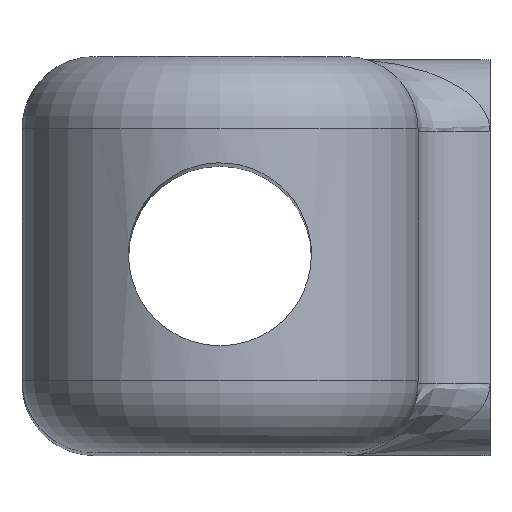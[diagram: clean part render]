
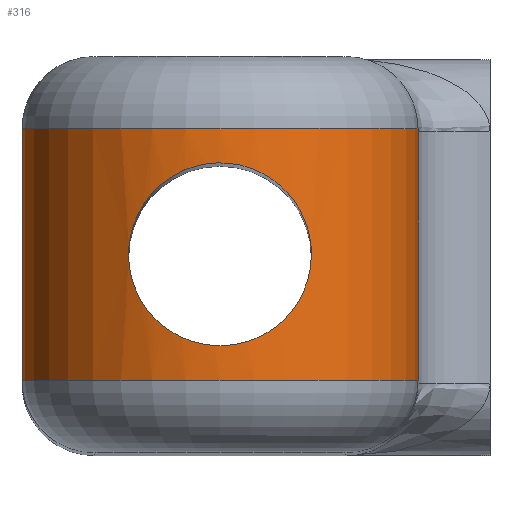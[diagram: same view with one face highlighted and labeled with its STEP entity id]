
A CAD part, top view. The second image highlights one B-rep face of the part: STEP entity #316.
In plain terms, the highlighted cylindrical face has radius 11 mm (diameter 22 mm), a partial arc.
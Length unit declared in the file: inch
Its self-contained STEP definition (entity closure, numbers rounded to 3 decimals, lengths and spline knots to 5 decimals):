
#31=FACE_BOUND('',#57,.T.);
#34=FACE_OUTER_BOUND('',#56,.T.);
#56=EDGE_LOOP('',(#217,#218,#219,#220));
#57=EDGE_LOOP('',(#221));
#79=B_SPLINE_CURVE_WITH_KNOTS('',3,(#514,#515,#516,#517,#518,#519,#520,
#521,#522,#523,#524,#525,#526,#527,#528,#529,#530,#531,#532,#533,#534,#535,
#536,#537,#538,#539,#540,#541,#542,#543,#544,#545,#546,#547),
 .UNSPECIFIED.,.T.,.F.,(4,2,2,2,2,2,2,2,2,2,2,2,2,2,2,2,4),(0.,0.19481,
0.38962,0.58405,0.77849,0.97293,
1.16737,1.36217,1.55698,1.75179,1.9466,
2.14103,2.33547,2.52991,2.72435,2.91915,
3.11396),.UNSPECIFIED.);
#81=LINE('',#553,#101);
#82=LINE('',#556,#102);
#101=VECTOR('',#407,0.55118);
#102=VECTOR('',#410,0.55118);
#121=CIRCLE('',#354,0.43307);
#122=CIRCLE('',#355,0.43307);
#142=VERTEX_POINT('',#512);
#143=VERTEX_POINT('',#549);
#144=VERTEX_POINT('',#550);
#145=VERTEX_POINT('',#552);
#146=VERTEX_POINT('',#554);
#169=EDGE_CURVE('',#142,#142,#79,.T.);
#170=EDGE_CURVE('',#143,#144,#121,.T.);
#171=EDGE_CURVE('',#143,#145,#81,.T.);
#172=EDGE_CURVE('',#146,#145,#122,.T.);
#173=EDGE_CURVE('',#144,#146,#82,.T.);
#217=ORIENTED_EDGE('',*,*,#170,.F.);
#218=ORIENTED_EDGE('',*,*,#171,.T.);
#219=ORIENTED_EDGE('',*,*,#172,.F.);
#220=ORIENTED_EDGE('',*,*,#173,.F.);
#221=ORIENTED_EDGE('',*,*,#169,.T.);
#306=CYLINDRICAL_SURFACE('',#353,0.43307);
#316=ADVANCED_FACE('',(#34,#31),#306,.T.);
#353=AXIS2_PLACEMENT_3D('',#548,#403,#404);
#354=AXIS2_PLACEMENT_3D('',#551,#405,#406);
#355=AXIS2_PLACEMENT_3D('',#555,#408,#409);
#403=DIRECTION('center_axis',(0.,1.,0.));
#404=DIRECTION('ref_axis',(-1.,0.,0.));
#405=DIRECTION('center_axis',(0.,-1.,0.));
#406=DIRECTION('ref_axis',(0.,0.,1.));
#407=DIRECTION('',(0.,1.,0.));
#408=DIRECTION('center_axis',(0.,1.,0.));
#409=DIRECTION('ref_axis',(0.,0.,1.));
#410=DIRECTION('',(0.,1.,0.));
#512=CARTESIAN_POINT('',(0.2,0.,4.28176));
#514=CARTESIAN_POINT('Ctrl Pts',(0.2,0.,
4.28176));
#515=CARTESIAN_POINT('Ctrl Pts',(0.2,-0.02557,4.28176));
#516=CARTESIAN_POINT('Ctrl Pts',(0.19481,-0.05251,4.28458));
#517=CARTESIAN_POINT('Ctrl Pts',(0.1743,-0.10163,4.29425));
#518=CARTESIAN_POINT('Ctrl Pts',(0.15898,-0.12386,4.3009));
#519=CARTESIAN_POINT('Ctrl Pts',(0.12389,-0.15895,4.31302));
#520=CARTESIAN_POINT('Ctrl Pts',(0.10166,-0.17429,4.31935));
#521=CARTESIAN_POINT('Ctrl Pts',(0.05248,-0.19482,
4.32824));
#522=CARTESIAN_POINT('Ctrl Pts',(0.02552,-0.2,4.33071));
#523=CARTESIAN_POINT('Ctrl Pts',(-0.02552,-0.2,
4.33071));
#524=CARTESIAN_POINT('Ctrl Pts',(-0.05248,-0.19482,
4.32824));
#525=CARTESIAN_POINT('Ctrl Pts',(-0.10166,-0.17429,
4.31935));
#526=CARTESIAN_POINT('Ctrl Pts',(-0.12389,-0.15895,
4.31302));
#527=CARTESIAN_POINT('Ctrl Pts',(-0.15898,-0.12386,
4.3009));
#528=CARTESIAN_POINT('Ctrl Pts',(-0.1743,-0.10163,
4.29425));
#529=CARTESIAN_POINT('Ctrl Pts',(-0.19481,-0.05251,
4.28458));
#530=CARTESIAN_POINT('Ctrl Pts',(-0.2,-0.02557,
4.28176));
#531=CARTESIAN_POINT('Ctrl Pts',(-0.2,0.02557,4.28176));
#532=CARTESIAN_POINT('Ctrl Pts',(-0.19481,0.05251,
4.28458));
#533=CARTESIAN_POINT('Ctrl Pts',(-0.1743,0.10163,4.29425));
#534=CARTESIAN_POINT('Ctrl Pts',(-0.15898,0.12386,4.3009));
#535=CARTESIAN_POINT('Ctrl Pts',(-0.12389,0.15895,4.31302));
#536=CARTESIAN_POINT('Ctrl Pts',(-0.10166,0.17429,4.31935));
#537=CARTESIAN_POINT('Ctrl Pts',(-0.05248,0.19482,
4.32824));
#538=CARTESIAN_POINT('Ctrl Pts',(-0.02552,0.2,4.33071));
#539=CARTESIAN_POINT('Ctrl Pts',(0.02552,0.2,4.33071));
#540=CARTESIAN_POINT('Ctrl Pts',(0.05248,0.19482,4.32824));
#541=CARTESIAN_POINT('Ctrl Pts',(0.10166,0.17429,4.31935));
#542=CARTESIAN_POINT('Ctrl Pts',(0.12389,0.15895,4.31302));
#543=CARTESIAN_POINT('Ctrl Pts',(0.15898,0.12386,4.3009));
#544=CARTESIAN_POINT('Ctrl Pts',(0.1743,0.10163,4.29425));
#545=CARTESIAN_POINT('Ctrl Pts',(0.19481,0.05251,4.28458));
#546=CARTESIAN_POINT('Ctrl Pts',(0.2,0.02557,4.28176));
#547=CARTESIAN_POINT('Ctrl Pts',(0.2,0.,4.28176));
#548=CARTESIAN_POINT('Origin',(0.,0.,3.89764));
#549=CARTESIAN_POINT('',(0.43307,-0.27559,3.89764));
#550=CARTESIAN_POINT('',(-0.43307,-0.27559,3.89764));
#551=CARTESIAN_POINT('Origin',(0.,-0.27559,
3.89764));
#552=CARTESIAN_POINT('',(0.43307,0.27559,3.89764));
#553=CARTESIAN_POINT('',(0.43307,-0.27559,3.89764));
#554=CARTESIAN_POINT('',(-0.43307,0.27559,3.89764));
#555=CARTESIAN_POINT('Origin',(0.,0.27559,
3.89764));
#556=CARTESIAN_POINT('',(-0.43307,-0.27559,3.89764));
